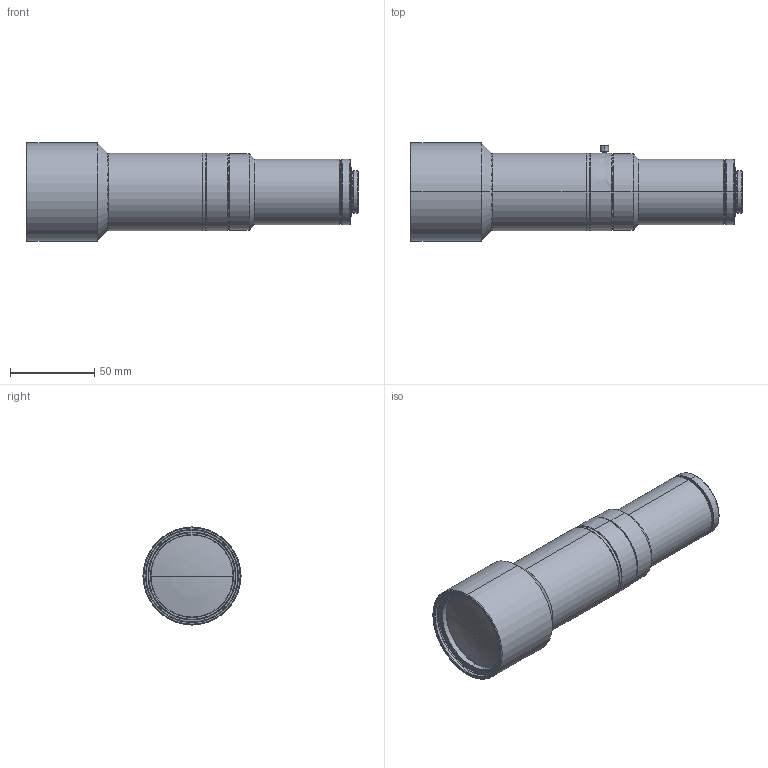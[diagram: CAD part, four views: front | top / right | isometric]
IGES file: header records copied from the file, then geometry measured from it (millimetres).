
Start section: SolidWorks IGES file using analytic representation for surfaces
Bounding box: 196.47 x 58 x 58 mm (x, y, z)
Surface area: 45339.9 mm2 (no closed solid volume)
Topology: 0 solids, 0 shells, 160 faces, 3266 edges, 3265 vertices
Faces by surface type: revolution 136, bspline 24
